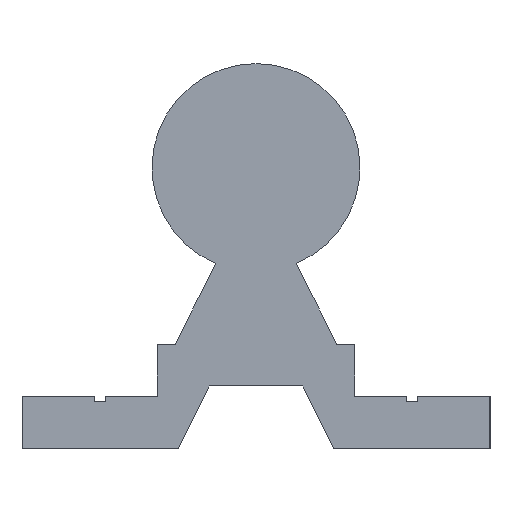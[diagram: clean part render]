
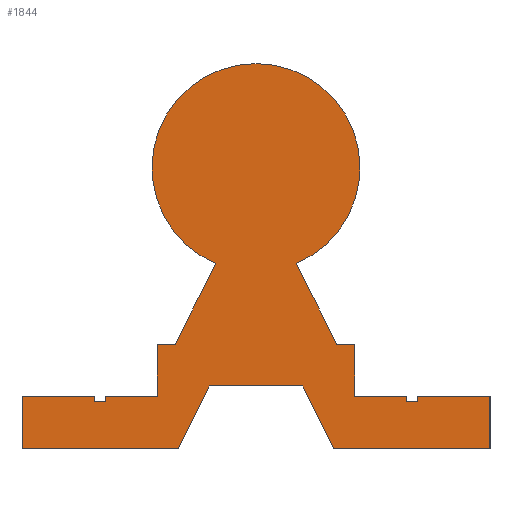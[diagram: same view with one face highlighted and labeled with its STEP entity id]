
A CAD part, left-side view. The second image highlights one B-rep face of the part: STEP entity #1844.
In plain terms, the highlighted planar face has unit normal (-1, 0, 0).
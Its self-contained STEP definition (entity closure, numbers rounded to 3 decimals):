
#46=LINE('',#2627,#192);
#56=LINE('',#2668,#202);
#80=LINE('',#2865,#226);
#134=LINE('',#3099,#280);
#138=LINE('',#3107,#284);
#141=LINE('',#3113,#287);
#144=LINE('',#3119,#290);
#147=LINE('',#3125,#293);
#151=LINE('',#3132,#297);
#154=LINE('',#3137,#300);
#156=LINE('',#3141,#302);
#157=LINE('',#3143,#303);
#158=LINE('',#3146,#304);
#161=LINE('',#3152,#307);
#164=LINE('',#3158,#310);
#167=LINE('',#3165,#313);
#171=LINE('',#3173,#317);
#174=LINE('',#3178,#320);
#177=LINE('',#3183,#323);
#179=LINE('',#3187,#325);
#180=LINE('',#3189,#326);
#181=LINE('',#3192,#327);
#184=LINE('',#3197,#330);
#192=VECTOR('',#2083,10.);
#202=VECTOR('',#2105,10.);
#226=VECTOR('',#2249,10.);
#280=VECTOR('',#2489,10.);
#284=VECTOR('',#2495,10.);
#287=VECTOR('',#2500,10.);
#290=VECTOR('',#2505,10.);
#293=VECTOR('',#2510,10.);
#297=VECTOR('',#2516,10.);
#300=VECTOR('',#2521,10.);
#302=VECTOR('',#2525,10.);
#303=VECTOR('',#2528,10.);
#304=VECTOR('',#2531,10.);
#307=VECTOR('',#2536,10.);
#310=VECTOR('',#2541,10.);
#313=VECTOR('',#2546,10.);
#317=VECTOR('',#2552,10.);
#320=VECTOR('',#2557,10.);
#323=VECTOR('',#2562,10.);
#325=VECTOR('',#2566,10.);
#326=VECTOR('',#2569,10.);
#327=VECTOR('',#2572,10.);
#330=VECTOR('',#2577,10.);
#392=PLANE('',#2056);
#482=FACE_OUTER_BOUND('',#584,.T.);
#584=EDGE_LOOP('',(#1715,#1716,#1717,#1718,#1719,#1720,#1721,#1722,#1723,
#1724,#1725,#1726,#1727,#1728,#1729,#1730,#1731,#1732,#1733,#1734,#1735,
#1736,#1737,#1738));
#685=CIRCLE('',#2053,10.);
#733=VERTEX_POINT('',#2624);
#734=VERTEX_POINT('',#2626);
#746=VERTEX_POINT('',#2665);
#747=VERTEX_POINT('',#2667);
#802=VERTEX_POINT('',#2862);
#803=VERTEX_POINT('',#2864);
#868=VERTEX_POINT('',#3097);
#869=VERTEX_POINT('',#3098);
#872=VERTEX_POINT('',#3106);
#874=VERTEX_POINT('',#3112);
#876=VERTEX_POINT('',#3118);
#878=VERTEX_POINT('',#3124);
#880=VERTEX_POINT('',#3130);
#881=VERTEX_POINT('',#3135);
#882=VERTEX_POINT('',#3139);
#883=VERTEX_POINT('',#3145);
#885=VERTEX_POINT('',#3151);
#887=VERTEX_POINT('',#3157);
#889=VERTEX_POINT('',#3163);
#890=VERTEX_POINT('',#3164);
#893=VERTEX_POINT('',#3172);
#895=VERTEX_POINT('',#3181);
#896=VERTEX_POINT('',#3185);
#897=VERTEX_POINT('',#3191);
#914=EDGE_CURVE('',#733,#734,#46,.T.);
#930=EDGE_CURVE('',#746,#747,#56,.T.);
#1012=EDGE_CURVE('',#802,#803,#80,.T.);
#1125=EDGE_CURVE('',#868,#869,#134,.T.);
#1129=EDGE_CURVE('',#872,#868,#138,.T.);
#1132=EDGE_CURVE('',#874,#872,#141,.T.);
#1135=EDGE_CURVE('',#876,#874,#144,.T.);
#1138=EDGE_CURVE('',#878,#876,#147,.T.);
#1142=EDGE_CURVE('',#880,#878,#151,.T.);
#1145=EDGE_CURVE('',#881,#880,#154,.T.);
#1147=EDGE_CURVE('',#882,#881,#156,.T.);
#1148=EDGE_CURVE('',#803,#882,#157,.T.);
#1149=EDGE_CURVE('',#883,#802,#158,.T.);
#1152=EDGE_CURVE('',#885,#883,#161,.T.);
#1155=EDGE_CURVE('',#887,#885,#164,.T.);
#1158=EDGE_CURVE('',#889,#890,#167,.T.);
#1162=EDGE_CURVE('',#893,#889,#171,.T.);
#1165=EDGE_CURVE('',#734,#893,#174,.T.);
#1168=EDGE_CURVE('',#895,#733,#177,.T.);
#1170=EDGE_CURVE('',#896,#895,#179,.T.);
#1171=EDGE_CURVE('',#747,#896,#180,.T.);
#1172=EDGE_CURVE('',#897,#746,#181,.T.);
#1175=EDGE_CURVE('',#869,#897,#184,.T.);
#1177=EDGE_CURVE('',#890,#887,#685,.T.);
#1715=ORIENTED_EDGE('',*,*,#1177,.F.);
#1716=ORIENTED_EDGE('',*,*,#1158,.F.);
#1717=ORIENTED_EDGE('',*,*,#1162,.F.);
#1718=ORIENTED_EDGE('',*,*,#1165,.F.);
#1719=ORIENTED_EDGE('',*,*,#914,.F.);
#1720=ORIENTED_EDGE('',*,*,#1168,.F.);
#1721=ORIENTED_EDGE('',*,*,#1170,.F.);
#1722=ORIENTED_EDGE('',*,*,#1171,.F.);
#1723=ORIENTED_EDGE('',*,*,#930,.F.);
#1724=ORIENTED_EDGE('',*,*,#1172,.F.);
#1725=ORIENTED_EDGE('',*,*,#1175,.F.);
#1726=ORIENTED_EDGE('',*,*,#1125,.F.);
#1727=ORIENTED_EDGE('',*,*,#1129,.F.);
#1728=ORIENTED_EDGE('',*,*,#1132,.F.);
#1729=ORIENTED_EDGE('',*,*,#1135,.F.);
#1730=ORIENTED_EDGE('',*,*,#1138,.F.);
#1731=ORIENTED_EDGE('',*,*,#1142,.F.);
#1732=ORIENTED_EDGE('',*,*,#1145,.F.);
#1733=ORIENTED_EDGE('',*,*,#1147,.F.);
#1734=ORIENTED_EDGE('',*,*,#1148,.F.);
#1735=ORIENTED_EDGE('',*,*,#1012,.F.);
#1736=ORIENTED_EDGE('',*,*,#1149,.F.);
#1737=ORIENTED_EDGE('',*,*,#1152,.F.);
#1738=ORIENTED_EDGE('',*,*,#1155,.F.);
#1844=ADVANCED_FACE('',(#482),#392,.F.);
#2053=AXIS2_PLACEMENT_3D('',#3200,#2581,#2582);
#2056=AXIS2_PLACEMENT_3D('',#3203,#2587,#2588);
#2083=DIRECTION('',(0.,-1.,0.));
#2105=DIRECTION('',(0.,-1.,0.));
#2249=DIRECTION('',(0.,-1.,0.));
#2489=DIRECTION('',(0.,0.447,-0.894));
#2495=DIRECTION('',(0.,1.,0.));
#2500=DIRECTION('',(0.,0.447,0.894));
#2505=DIRECTION('',(0.,1.,0.));
#2510=DIRECTION('',(0.,0.,-1.));
#2516=DIRECTION('',(0.,-1.,0.));
#2521=DIRECTION('',(0.,0.,1.));
#2525=DIRECTION('',(0.,-1.,0.));
#2528=DIRECTION('',(0.,0.,-1.));
#2531=DIRECTION('',(0.,0.,-1.));
#2536=DIRECTION('',(0.,-1.,0.));
#2541=DIRECTION('',(0.,-0.447,-0.894));
#2546=DIRECTION('',(0.,-0.447,0.894));
#2552=DIRECTION('',(0.,-1.,0.));
#2557=DIRECTION('',(0.,0.,1.));
#2562=DIRECTION('',(0.,0.,1.));
#2566=DIRECTION('',(0.,-1.,0.));
#2569=DIRECTION('',(0.,0.,-1.));
#2572=DIRECTION('',(0.,0.,1.));
#2577=DIRECTION('',(0.,1.,0.));
#2581=DIRECTION('center_axis',(1.,0.,0.));
#2582=DIRECTION('ref_axis',(0.,1.,0.));
#2587=DIRECTION('center_axis',(1.,0.,0.));
#2588=DIRECTION('ref_axis',(0.,0.,-1.));
#2624=CARTESIAN_POINT('',(0.,14.5,5.));
#2626=CARTESIAN_POINT('',(0.,9.5,5.));
#2627=CARTESIAN_POINT('',(0.,14.5,5.));
#2665=CARTESIAN_POINT('',(0.,22.5,5.));
#2667=CARTESIAN_POINT('',(0.,15.5,5.));
#2668=CARTESIAN_POINT('',(0.,22.5,5.));
#2862=CARTESIAN_POINT('',(0.,-9.5,5.));
#2864=CARTESIAN_POINT('',(0.,-14.5,5.));
#2865=CARTESIAN_POINT('',(0.,-9.5,5.));
#3097=CARTESIAN_POINT('',(0.,4.5,6.));
#3098=CARTESIAN_POINT('',(0.,7.5,0.));
#3099=CARTESIAN_POINT('',(0.,4.5,6.));
#3106=CARTESIAN_POINT('',(0.,-4.5,6.));
#3107=CARTESIAN_POINT('',(0.,-4.5,6.));
#3112=CARTESIAN_POINT('',(0.,-7.5,0.));
#3113=CARTESIAN_POINT('',(0.,-7.5,0.));
#3118=CARTESIAN_POINT('',(0.,-22.5,0.));
#3119=CARTESIAN_POINT('',(0.,-22.5,0.));
#3124=CARTESIAN_POINT('',(0.,-22.5,5.));
#3125=CARTESIAN_POINT('',(0.,-22.5,5.));
#3130=CARTESIAN_POINT('',(0.,-15.5,5.));
#3132=CARTESIAN_POINT('',(0.,-15.5,5.));
#3135=CARTESIAN_POINT('',(0.,-15.5,4.5));
#3137=CARTESIAN_POINT('',(0.,-15.5,4.5));
#3139=CARTESIAN_POINT('',(0.,-14.5,4.5));
#3141=CARTESIAN_POINT('',(0.,-14.5,4.5));
#3143=CARTESIAN_POINT('',(0.,-14.5,5.));
#3145=CARTESIAN_POINT('',(0.,-9.5,10.));
#3146=CARTESIAN_POINT('',(0.,-9.5,10.));
#3151=CARTESIAN_POINT('',(0.,-7.766,10.));
#3152=CARTESIAN_POINT('',(0.,-7.766,10.));
#3157=CARTESIAN_POINT('',(0.,-3.875,17.781));
#3158=CARTESIAN_POINT('',(0.,-3.875,17.781));
#3163=CARTESIAN_POINT('',(0.,7.766,10.));
#3164=CARTESIAN_POINT('',(0.,3.875,17.781));
#3165=CARTESIAN_POINT('',(0.,7.766,10.));
#3172=CARTESIAN_POINT('',(0.,9.5,10.));
#3173=CARTESIAN_POINT('',(0.,9.5,10.));
#3178=CARTESIAN_POINT('',(0.,9.5,5.));
#3181=CARTESIAN_POINT('',(0.,14.5,4.5));
#3183=CARTESIAN_POINT('',(0.,14.5,4.5));
#3185=CARTESIAN_POINT('',(0.,15.5,4.5));
#3187=CARTESIAN_POINT('',(0.,15.5,4.5));
#3189=CARTESIAN_POINT('',(0.,15.5,5.));
#3191=CARTESIAN_POINT('',(0.,22.5,0.));
#3192=CARTESIAN_POINT('',(0.,22.5,0.));
#3197=CARTESIAN_POINT('',(0.,7.5,0.));
#3200=CARTESIAN_POINT('Origin',(0.,0.,27.));
#3203=CARTESIAN_POINT('Origin',(0.,0.,27.));
